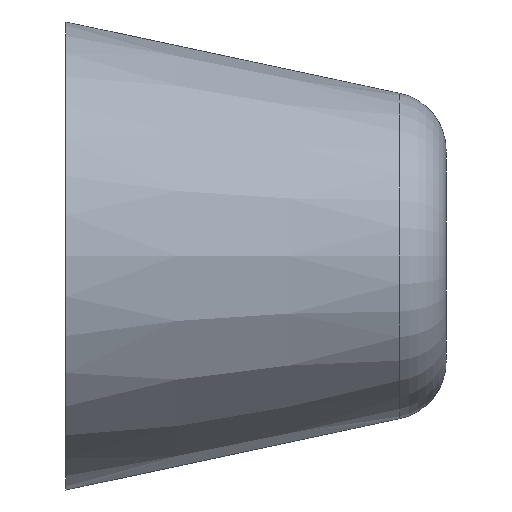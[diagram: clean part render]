
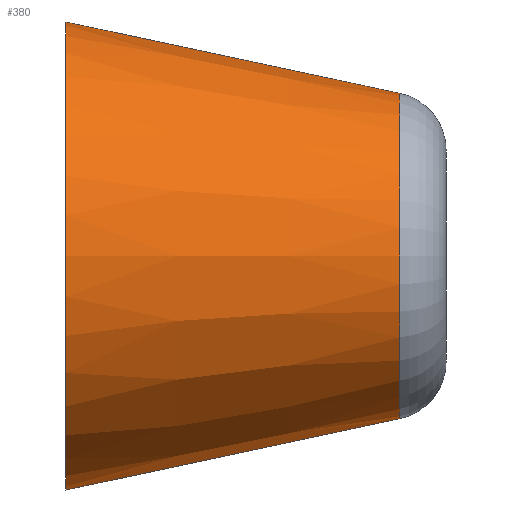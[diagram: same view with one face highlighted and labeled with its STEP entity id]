
A CAD part, left-side view. The second image highlights one B-rep face of the part: STEP entity #380.
In plain terms, the highlighted conical face has half-angle 12.05 degrees and reference radius 10.45 mm.
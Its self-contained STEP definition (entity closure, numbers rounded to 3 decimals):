
#17 = CONICAL_SURFACE ( 'NONE', #29, 10.45, 0.21 ) ;
#23 = EDGE_CURVE ( 'NONE', #223, #263, #126, .T. ) ;
#29 = AXIS2_PLACEMENT_3D ( 'NONE', #409, #140, #480 ) ;
#31 = ORIENTED_EDGE ( 'NONE', *, *, #66, .T. ) ;
#57 = CARTESIAN_POINT ( 'NONE',  ( 0., 3.165, -11.126 ) ) ;
#65 = DIRECTION ( 'NONE',  ( 0., 0.978, -0.209 ) ) ;
#66 = EDGE_CURVE ( 'NONE', #263, #411, #568, .T. ) ;
#79 = EDGE_CURVE ( 'NONE', #223, #589, #154, .T. ) ;
#81 = ORIENTED_EDGE ( 'NONE', *, *, #23, .T. ) ;
#99 = CARTESIAN_POINT ( 'NONE',  ( 0., 3.165, 11.126 ) ) ;
#126 = CIRCLE ( 'NONE', #475, 11.126 ) ;
#136 = DIRECTION ( 'NONE',  ( 0., -1., 0. ) ) ;
#140 = DIRECTION ( 'NONE',  ( 0., 1., 0. ) ) ;
#154 = LINE ( 'NONE', #330, #299 ) ;
#187 = CARTESIAN_POINT ( 'NONE',  ( 0., 3.165, 0. ) ) ;
#189 = CIRCLE ( 'NONE', #502, 16. ) ;
#213 = ORIENTED_EDGE ( 'NONE', *, *, #311, .T. ) ;
#223 = VERTEX_POINT ( 'NONE', #57 ) ;
#230 = CARTESIAN_POINT ( 'NONE',  ( 0., 26., 0. ) ) ;
#263 = VERTEX_POINT ( 'NONE', #99 ) ;
#273 = FACE_OUTER_BOUND ( 'NONE', #495, .T. ) ;
#286 = CARTESIAN_POINT ( 'NONE',  ( 0., 0., 10.45 ) ) ;
#290 = CARTESIAN_POINT ( 'NONE',  ( 0., 26., 16. ) ) ;
#299 = VECTOR ( 'NONE', #65, 1000. ) ;
#311 = EDGE_CURVE ( 'NONE', #411, #589, #189, .T. ) ;
#330 = CARTESIAN_POINT ( 'NONE',  ( 0., 0., -10.45 ) ) ;
#354 = VECTOR ( 'NONE', #432, 1000. ) ;
#380 = ADVANCED_FACE ( 'NONE', ( #273 ), #17, .T. ) ;
#394 = DIRECTION ( 'NONE',  ( 0., 0., -1. ) ) ;
#409 = CARTESIAN_POINT ( 'NONE',  ( 0., 0., 0. ) ) ;
#411 = VERTEX_POINT ( 'NONE', #290 ) ;
#432 = DIRECTION ( 'NONE',  ( 0., 0.978, 0.209 ) ) ;
#462 = DIRECTION ( 'NONE',  ( 0., 0., -1. ) ) ;
#475 = AXIS2_PLACEMENT_3D ( 'NONE', #187, #521, #394 ) ;
#480 = DIRECTION ( 'NONE',  ( 0., 0., 1. ) ) ;
#495 = EDGE_LOOP ( 'NONE', ( #598, #81, #31, #213 ) ) ;
#502 = AXIS2_PLACEMENT_3D ( 'NONE', #230, #136, #462 ) ;
#521 = DIRECTION ( 'NONE',  ( 0., 1., 0. ) ) ;
#532 = CARTESIAN_POINT ( 'NONE',  ( 0., 26., -16. ) ) ;
#568 = LINE ( 'NONE', #286, #354 ) ;
#589 = VERTEX_POINT ( 'NONE', #532 ) ;
#598 = ORIENTED_EDGE ( 'NONE', *, *, #79, .F. ) ;
